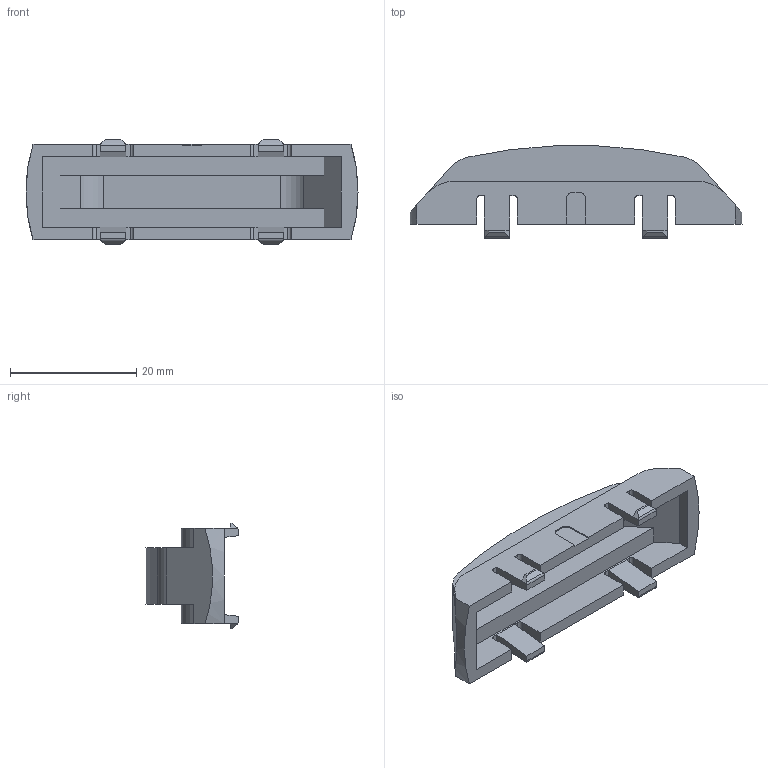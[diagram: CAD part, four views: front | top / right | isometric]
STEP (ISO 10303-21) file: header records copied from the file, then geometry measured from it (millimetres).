
FILE_DESCRIPTION(/* description */ ('STEP AP203'),/* implementation_level */ '2;1');
FILE_NAME(/* name */ 'E12740',/* time_stamp */ '2025-01-08T12:54:28+01:00',/* author */ ('License CC BY-ND 4.0'),/* organization */ ('CADENAS'),/* preprocessor_version */ 'ST-DEVELOPER v19.3',/* originating_system */ 'PARTsolutions',/* authorisation */ ' ');
FILE_SCHEMA (('CONFIG_CONTROL_DESIGN'));
Length unit declared in the file: millimetre
Products named in the file (1): E12740
Bounding box: 52.6 x 14.6 x 16.7 mm (x, y, z)
Volume: 3282 mm3; surface area: 3828.3 mm2
Topology: 1 solids, 1 shells, 104 faces, 298 edges, 196 vertices
Faces by surface type: plane 79, cylinder 25
Entity records: 3406 total; most frequent: CARTESIAN_POINT 599, ORIENTED_EDGE 596, DIRECTION 566, EDGE_CURVE 298, LINE 240, VECTOR 240, VERTEX_POINT 196, AXIS2_PLACEMENT_3D 163
